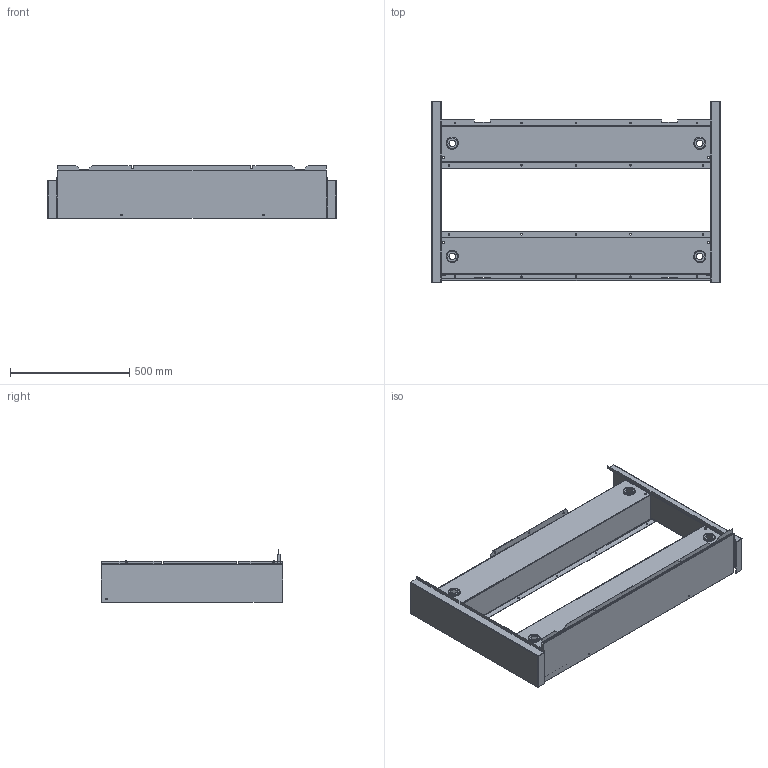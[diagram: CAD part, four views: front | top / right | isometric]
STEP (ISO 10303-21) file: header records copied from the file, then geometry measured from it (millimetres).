
FILE_DESCRIPTION (( 'STEP AP214' ), '1' );
FILE_NAME ('IRP-6 RISER BASE.STEP', '2016-07-14T15:30:52', ( 'BMC' ), ( 'Bard Manufacturing Co., Inc.' ), 'SwSTEP 2.0', 'SolidWorks 2016', '' );
FILE_SCHEMA (( 'AUTOMOTIVE_DESIGN' ));
Length unit declared in the file: inch
Products named in the file (8): 134-314; 134-313; 126-420; 112-447; 104-1264; 134-312; 140-385; IRP-6 RISER BASE
Assembly tree (10 placements, depth 2):
  IRP-6 RISER BASE
    140-385  x2
    134-312
    104-1264  x2
    112-447  x2
    126-420
    134-313
    134-314
Bounding box: 1209.78 x 760.18 x 221.9 mm (x, y, z)
Surface area: 3762706.9 mm2 (no closed solid volume)
Topology: 0 solids, 9 shells, 532 faces, 1434 edges, 928 vertices
Faces by surface type: plane 258, cylinder 242, bspline 32
Entity records: 18201 total; most frequent: CARTESIAN_POINT 3991, DIRECTION 2992, ORIENTED_EDGE 2840, EDGE_CURVE 1420, AXIS2_PLACEMENT_3D 1077, VERTEX_POINT 924, VECTOR 838, LINE 838
